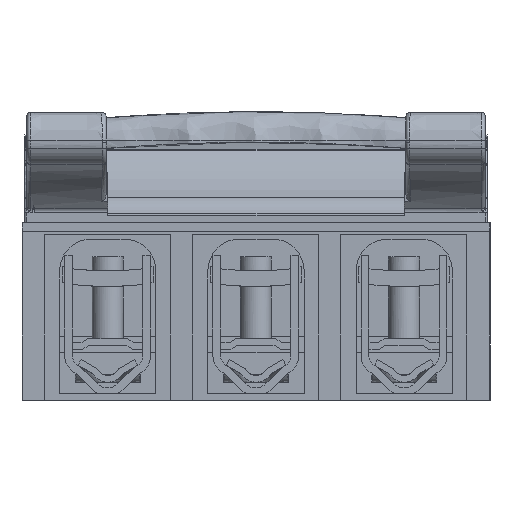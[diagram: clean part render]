
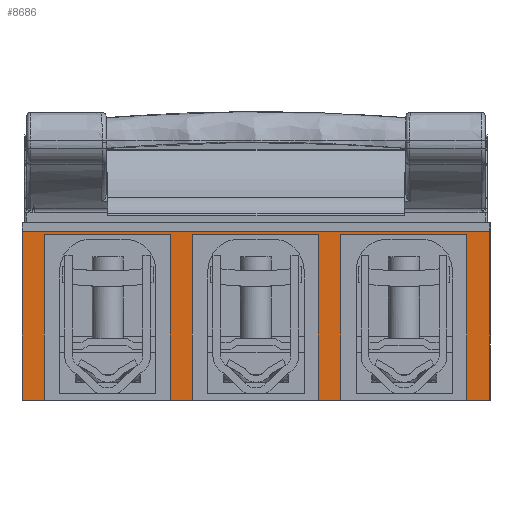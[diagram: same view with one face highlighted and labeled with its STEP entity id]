
A CAD part, left-side view. The second image highlights one B-rep face of the part: STEP entity #8686.
In plain terms, the highlighted planar face has unit normal (-1, 0, 0).
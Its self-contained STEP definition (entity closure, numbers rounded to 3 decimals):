
#8686=ADVANCED_FACE('',(#13150),#11430,.F.);
#11430=PLANE('',#52797);
#13150=FACE_OUTER_BOUND('',#15780,.T.);
#15780=EDGE_LOOP('',(#18793,#18794,#18795,#18796,#18797,#18798,#18799,#18800,
#18801,#18802,#18803,#18804,#18805,#18806,#18807,#18808));
#18793=ORIENTED_EDGE('',*,*,#37932,.F.);
#18794=ORIENTED_EDGE('',*,*,#37944,.T.);
#18795=ORIENTED_EDGE('',*,*,#37973,.T.);
#18796=ORIENTED_EDGE('',*,*,#37974,.T.);
#18797=ORIENTED_EDGE('',*,*,#37975,.F.);
#18798=ORIENTED_EDGE('',*,*,#37940,.T.);
#18799=ORIENTED_EDGE('',*,*,#37916,.F.);
#18800=ORIENTED_EDGE('',*,*,#37918,.F.);
#18801=ORIENTED_EDGE('',*,*,#37912,.F.);
#18802=ORIENTED_EDGE('',*,*,#37948,.T.);
#18803=ORIENTED_EDGE('',*,*,#37926,.F.);
#18804=ORIENTED_EDGE('',*,*,#37928,.F.);
#18805=ORIENTED_EDGE('',*,*,#37922,.F.);
#18806=ORIENTED_EDGE('',*,*,#37946,.T.);
#18807=ORIENTED_EDGE('',*,*,#37936,.F.);
#18808=ORIENTED_EDGE('',*,*,#37938,.F.);
#33231=VERTEX_POINT('',#70524);
#33234=VERTEX_POINT('',#70529);
#33235=VERTEX_POINT('',#70533);
#33238=VERTEX_POINT('',#70538);
#33239=VERTEX_POINT('',#70545);
#33242=VERTEX_POINT('',#70550);
#33243=VERTEX_POINT('',#70554);
#33246=VERTEX_POINT('',#70559);
#33247=VERTEX_POINT('',#70566);
#33250=VERTEX_POINT('',#70571);
#33251=VERTEX_POINT('',#70575);
#33254=VERTEX_POINT('',#70580);
#33255=VERTEX_POINT('',#70588);
#33258=VERTEX_POINT('',#70594);
#33283=VERTEX_POINT('',#70650);
#33284=VERTEX_POINT('',#70652);
#37912=EDGE_CURVE('',#33234,#33231,#45169,.T.);
#37916=EDGE_CURVE('',#33238,#33235,#45173,.T.);
#37918=EDGE_CURVE('',#33231,#33238,#45175,.T.);
#37922=EDGE_CURVE('',#33242,#33239,#45179,.T.);
#37926=EDGE_CURVE('',#33246,#33243,#45183,.T.);
#37928=EDGE_CURVE('',#33239,#33246,#45185,.T.);
#37932=EDGE_CURVE('',#33250,#33247,#45189,.T.);
#37936=EDGE_CURVE('',#33254,#33251,#45193,.T.);
#37938=EDGE_CURVE('',#33247,#33254,#45195,.T.);
#37940=EDGE_CURVE('',#33255,#33235,#45197,.T.);
#37944=EDGE_CURVE('',#33250,#33258,#45201,.T.);
#37946=EDGE_CURVE('',#33242,#33251,#45203,.T.);
#37948=EDGE_CURVE('',#33234,#33243,#45205,.T.);
#37973=EDGE_CURVE('',#33258,#33283,#45218,.T.);
#37974=EDGE_CURVE('',#33283,#33284,#45219,.T.);
#37975=EDGE_CURVE('',#33255,#33284,#45220,.T.);
#45169=LINE('',#70530,#48947);
#45173=LINE('',#70539,#48951);
#45175=LINE('',#70542,#48953);
#45179=LINE('',#70551,#48957);
#45183=LINE('',#70560,#48961);
#45185=LINE('',#70563,#48963);
#45189=LINE('',#70572,#48967);
#45193=LINE('',#70581,#48971);
#45195=LINE('',#70584,#48973);
#45197=LINE('',#70587,#48975);
#45201=LINE('',#70595,#48979);
#45203=LINE('',#70597,#48981);
#45205=LINE('',#70599,#48983);
#45218=LINE('',#70649,#48996);
#45219=LINE('',#70651,#48997);
#45220=LINE('',#70653,#48998);
#48947=VECTOR('',#57411,1.);
#48951=VECTOR('',#57417,1.);
#48953=VECTOR('',#57421,1.);
#48957=VECTOR('',#57427,1.);
#48961=VECTOR('',#57433,1.);
#48963=VECTOR('',#57437,1.);
#48967=VECTOR('',#57443,1.);
#48971=VECTOR('',#57449,1.);
#48973=VECTOR('',#57453,1.);
#48975=VECTOR('',#57457,1.);
#48979=VECTOR('',#57461,1.);
#48981=VECTOR('',#57463,1.);
#48983=VECTOR('',#57465,1.);
#48996=VECTOR('',#57504,1.);
#48997=VECTOR('',#57505,1.);
#48998=VECTOR('',#57506,1.);
#52797=AXIS2_PLACEMENT_3D('',#70654,#57507,#57508);
#57411=DIRECTION('',(0.,0.,1.));
#57417=DIRECTION('',(0.,0.,-1.));
#57421=DIRECTION('',(0.,1.,0.));
#57427=DIRECTION('',(0.,0.,1.));
#57433=DIRECTION('',(0.,0.,-1.));
#57437=DIRECTION('',(0.,1.,0.));
#57443=DIRECTION('',(0.,0.,1.));
#57449=DIRECTION('',(0.,0.,-1.));
#57453=DIRECTION('',(0.,1.,0.));
#57457=DIRECTION('',(0.,-1.,0.));
#57461=DIRECTION('',(0.,-1.,0.));
#57463=DIRECTION('',(0.,-1.,0.));
#57465=DIRECTION('',(0.,-1.,0.));
#57504=DIRECTION('',(0.,0.,1.));
#57505=DIRECTION('',(0.,1.,0.));
#57506=DIRECTION('',(0.,0.,1.));
#57507=DIRECTION('',(1.,0.,0.));
#57508=DIRECTION('',(0.,1.,0.));
#70524=CARTESIAN_POINT('',(-103.372,42.76,175.838));
#70529=CARTESIAN_POINT('',(-103.372,42.76,112.088));
#70530=CARTESIAN_POINT('',(-103.372,42.76,203.088));
#70533=CARTESIAN_POINT('',(-103.372,91.26,112.088));
#70538=CARTESIAN_POINT('',(-103.372,91.26,175.838));
#70539=CARTESIAN_POINT('',(-103.372,91.26,203.088));
#70542=CARTESIAN_POINT('',(-103.372,95.284,175.838));
#70545=CARTESIAN_POINT('',(-103.372,-14.24,175.838));
#70550=CARTESIAN_POINT('',(-103.372,-14.24,112.088));
#70551=CARTESIAN_POINT('',(-103.372,-14.24,203.088));
#70554=CARTESIAN_POINT('',(-103.372,34.26,112.088));
#70559=CARTESIAN_POINT('',(-103.372,34.26,175.838));
#70560=CARTESIAN_POINT('',(-103.372,34.26,203.088));
#70563=CARTESIAN_POINT('',(-103.372,95.284,175.838));
#70566=CARTESIAN_POINT('',(-103.372,-71.24,175.838));
#70571=CARTESIAN_POINT('',(-103.372,-71.24,112.088));
#70572=CARTESIAN_POINT('',(-103.372,-71.24,203.088));
#70575=CARTESIAN_POINT('',(-103.372,-22.74,112.088));
#70580=CARTESIAN_POINT('',(-103.372,-22.74,175.838));
#70581=CARTESIAN_POINT('',(-103.372,-22.74,203.088));
#70584=CARTESIAN_POINT('',(-103.372,95.284,175.838));
#70587=CARTESIAN_POINT('',(-103.372,95.284,112.088));
#70588=CARTESIAN_POINT('',(-103.372,99.784,112.088));
#70594=CARTESIAN_POINT('',(-103.372,-80.216,112.088));
#70595=CARTESIAN_POINT('',(-103.372,95.284,112.088));
#70597=CARTESIAN_POINT('',(-103.372,95.284,112.088));
#70599=CARTESIAN_POINT('',(-103.372,95.284,112.088));
#70649=CARTESIAN_POINT('',(-103.372,-80.216,117.088));
#70650=CARTESIAN_POINT('',(-103.372,-80.216,177.006));
#70651=CARTESIAN_POINT('',(-103.372,95.284,177.006));
#70652=CARTESIAN_POINT('',(-103.372,99.784,177.006));
#70653=CARTESIAN_POINT('',(-103.372,99.784,117.088));
#70654=CARTESIAN_POINT('',(-103.372,95.284,203.088));
